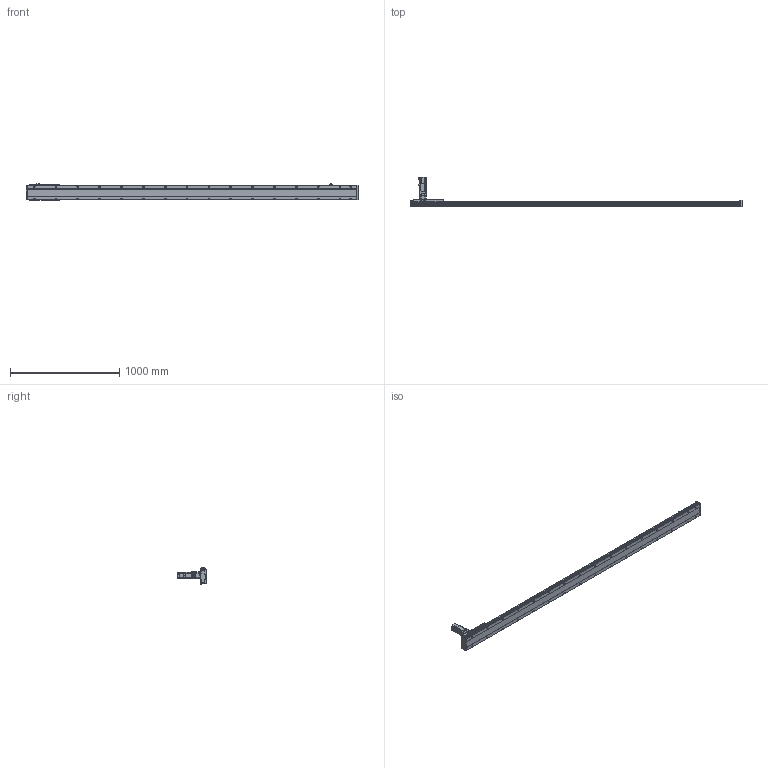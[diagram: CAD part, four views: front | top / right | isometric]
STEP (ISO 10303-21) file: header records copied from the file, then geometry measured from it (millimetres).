
FILE_DESCRIPTION(/* description */ ('STEP AP203'),/* implementation_level */ '2;1');
FILE_NAME(/* name */ 'SHS14A-L10-S2700-BC-T40-C1-N(0)',/* time_stamp */ '2023-03-27T08:28:43+02:00',/* author */ ('License CC BY-ND 4.0'),/* organization */ ('CADENAS'),/* preprocessor_version */ 'ST-DEVELOPER v19.3',/* originating_system */ 'PARTsolutions',/* authorisation */ ' ');
FILE_SCHEMA (('CONFIG_CONTROL_DESIGN'));
Length unit declared in the file: millimetre
Products named in the file (7): SHS14A-L10-S2700-BC-T40-C1-N(0); PSC140-sensor; T40-p1; SHS14AT_body3; SHS14A-2700_slider; SHS14A_body2; SHS14A-S2700-BC-T40-C1(0)_body
Assembly tree (13 placements, depth 2):
  SHS14A-L10-S2700-BC-T40-C1-N(0)
    PSC140-sensor  x3
    T40-p1
    SHS14AT_body3
    SHS14A-2700_slider
    SHS14A_body2  x6
    SHS14A-S2700-BC-T40-C1(0)_body
Bounding box: 3040 x 272.7 x 150.9 mm (x, y, z)
Volume: 12520874.2 mm3; surface area: 1949785 mm2
Topology: 13 solids, 13 shells, 2156 faces, 5503 edges, 3598 vertices
Faces by surface type: plane 1491, cylinder 571, cone 84, torus 10
Full cylindrical faces by diameter (mm): 2.8 x3, 4.134 x24, 4.2 x7, 4.4 x24, 4.5 x24, 4.6 x3, 4.8 x24, 4.917 x40, 5 x8, 5.5 x11, 5.94 x6, 6 x2, 6.6 x32, 8 x24, 8.49 x4, 8.5 x4, 9 x4, 10.5 x32, 13.964 x1, 14 x1, 14.182 x1, 16 x1, 18.974 x1, 19.274 x1, 19.774 x1, 19.8 x1, 34.442 x1, 42 x1, 50 x5
Entity records: 35122 total; most frequent: CARTESIAN_POINT 6282, DIRECTION 5935, ORIENTED_EDGE 5442, EDGE_CURVE 2721, AXIS2_PLACEMENT_3D 2081, VERTEX_POINT 1948, EDGE_LOOP 1799, FACE_BOUND 1799
